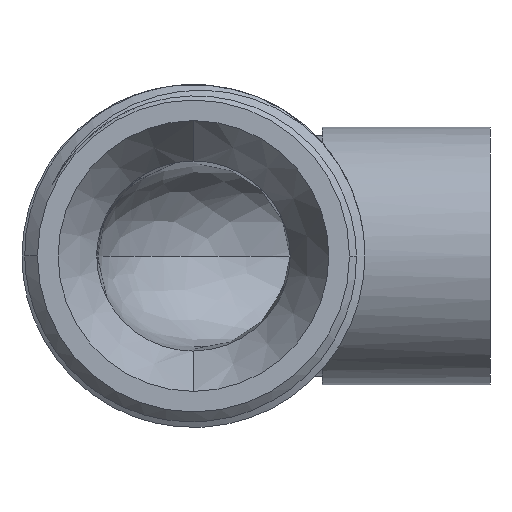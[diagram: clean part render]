
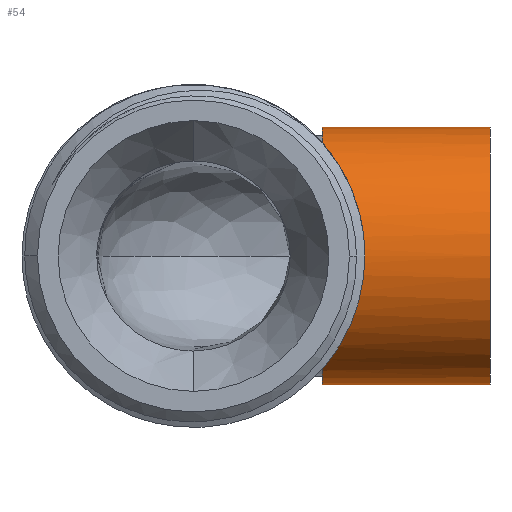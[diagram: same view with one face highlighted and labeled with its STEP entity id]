
A CAD part, front view. The second image highlights one B-rep face of the part: STEP entity #54.
In plain terms, the highlighted cylindrical face has radius 10 mm (diameter 20 mm), a partial arc.
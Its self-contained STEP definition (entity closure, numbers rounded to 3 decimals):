
#7 = EDGE_CURVE ( 'NONE', #71, #89, #362, .T. ) ;
#9 = ORIENTED_EDGE ( 'NONE', *, *, #41, .F. ) ;
#32 = VERTEX_POINT ( 'NONE', #722 ) ;
#41 = EDGE_CURVE ( 'NONE', #75, #199, #785, .T. ) ;
#53 = EDGE_CURVE ( 'NONE', #72, #71, #821, .T. ) ;
#54 = ADVANCED_FACE ( 'NONE', ( #816 ), #815, .T. ) ;
#55 = EDGE_LOOP ( 'NONE', ( #56, #57, #208, #209, #198, #210, #9 ) ) ;
#56 = ORIENTED_EDGE ( 'NONE', *, *, #74, .F. ) ;
#57 = ORIENTED_EDGE ( 'NONE', *, *, #53, .T. ) ;
#70 = VERTEX_POINT ( 'NONE', #1043 ) ;
#71 = VERTEX_POINT ( 'NONE', #1042 ) ;
#72 = VERTEX_POINT ( 'NONE', #1089 ) ;
#74 = EDGE_CURVE ( 'NONE', #72, #75, #1082, .T. ) ;
#75 = VERTEX_POINT ( 'NONE', #1078 ) ;
#80 = EDGE_CURVE ( 'NONE', #32, #70, #1137, .T. ) ;
#89 = VERTEX_POINT ( 'NONE', #1146 ) ;
#197 = EDGE_CURVE ( 'NONE', #32, #89, #1876, .T. ) ;
#198 = ORIENTED_EDGE ( 'NONE', *, *, #80, .T. ) ;
#199 = VERTEX_POINT ( 'NONE', #1867 ) ;
#208 = ORIENTED_EDGE ( 'NONE', *, *, #7, .T. ) ;
#209 = ORIENTED_EDGE ( 'NONE', *, *, #197, .F. ) ;
#210 = ORIENTED_EDGE ( 'NONE', *, *, #211, .T. ) ;
#211 = EDGE_CURVE ( 'NONE', #70, #199, #2202, .T. ) ;
#359 = DIRECTION ( 'NONE',  ( -1., 0., 0. ) ) ;
#360 = VECTOR ( 'NONE', #359, 1000. ) ;
#361 = CARTESIAN_POINT ( 'NONE',  ( 0., 0., 10. ) ) ;
#362 = LINE ( 'NONE', #361, #360 ) ;
#722 = CARTESIAN_POINT ( 'NONE',  ( 10., -9.899, 1.418 ) ) ;
#781 = DIRECTION ( 'NONE',  ( 0., 0., 1. ) ) ;
#782 = DIRECTION ( 'NONE',  ( -1., 0., 0. ) ) ;
#783 = CARTESIAN_POINT ( 'NONE',  ( 10., 0., 0. ) ) ;
#784 = AXIS2_PLACEMENT_3D ( 'NONE', #783, #782, #781 ) ;
#785 = CIRCLE ( 'NONE', #784, 10. ) ;
#811 = DIRECTION ( 'NONE',  ( 0., 0., 1. ) ) ;
#812 = DIRECTION ( 'NONE',  ( -1., 0., 0. ) ) ;
#813 = CARTESIAN_POINT ( 'NONE',  ( 0., 0., 0. ) ) ;
#814 = AXIS2_PLACEMENT_3D ( 'NONE', #813, #812, #811 ) ;
#815 = CYLINDRICAL_SURFACE ( 'NONE', #814, 10. ) ;
#816 = FACE_OUTER_BOUND ( 'NONE', #55, .T. ) ;
#817 = DIRECTION ( 'NONE',  ( 0., 0., 1. ) ) ;
#818 = DIRECTION ( 'NONE',  ( -1., 0., 0. ) ) ;
#819 = CARTESIAN_POINT ( 'NONE',  ( 23., 0., 0. ) ) ;
#820 = AXIS2_PLACEMENT_3D ( 'NONE', #819, #818, #817 ) ;
#821 = CIRCLE ( 'NONE', #820, 10. ) ;
#1042 = CARTESIAN_POINT ( 'NONE',  ( 23., 0., 10. ) ) ;
#1043 = CARTESIAN_POINT ( 'NONE',  ( 10.085, -10., 0. ) ) ;
#1078 = CARTESIAN_POINT ( 'NONE',  ( 10., 0., -10. ) ) ;
#1079 = DIRECTION ( 'NONE',  ( -1., 0., 0. ) ) ;
#1080 = VECTOR ( 'NONE', #1079, 1000. ) ;
#1081 = CARTESIAN_POINT ( 'NONE',  ( 0., 0., -10. ) ) ;
#1082 = LINE ( 'NONE', #1081, #1080 ) ;
#1089 = CARTESIAN_POINT ( 'NONE',  ( 23., 0., -10. ) ) ;
#1114 = CARTESIAN_POINT ( 'NONE',  ( 10.085, -10., 0. ) ) ;
#1115 = CARTESIAN_POINT ( 'NONE',  ( 10.085, -10., 0.473 ) ) ;
#1116 = CARTESIAN_POINT ( 'NONE',  ( 10.057, -9.967, 0.945 ) ) ;
#1117 = CARTESIAN_POINT ( 'NONE',  ( 10., -9.899, 1.418 ) ) ;
#1137 = B_SPLINE_CURVE_WITH_KNOTS ( 'NONE', 3,
 ( #1117, #1116, #1115, #1114 ),
 .UNSPECIFIED., .F., .F.,
 ( 4, 4 ),
 ( 0., 0.001 ),
 .UNSPECIFIED. ) ;
#1146 = CARTESIAN_POINT ( 'NONE',  ( 10., 0., 10. ) ) ;
#1867 = CARTESIAN_POINT ( 'NONE',  ( 10., -9.899, -1.418 ) ) ;
#1868 = DIRECTION ( 'NONE',  ( 0., 0., 1. ) ) ;
#1869 = DIRECTION ( 'NONE',  ( -1., 0., 0. ) ) ;
#1870 = CARTESIAN_POINT ( 'NONE',  ( 10., 0., 0. ) ) ;
#1871 = AXIS2_PLACEMENT_3D ( 'NONE', #1870, #1869, #1868 ) ;
#1876 = CIRCLE ( 'NONE', #1871, 10. ) ;
#2198 = CARTESIAN_POINT ( 'NONE',  ( 10., -9.899, -1.418 ) ) ;
#2199 = CARTESIAN_POINT ( 'NONE',  ( 10.057, -9.967, -0.945 ) ) ;
#2200 = CARTESIAN_POINT ( 'NONE',  ( 10.085, -10., -0.473 ) ) ;
#2201 = CARTESIAN_POINT ( 'NONE',  ( 10.085, -10., 0. ) ) ;
#2202 = B_SPLINE_CURVE_WITH_KNOTS ( 'NONE', 3,
 ( #2201, #2200, #2199, #2198 ),
 .UNSPECIFIED., .F., .F.,
 ( 4, 4 ),
 ( 0.001, 0.003 ),
 .UNSPECIFIED. ) ;
